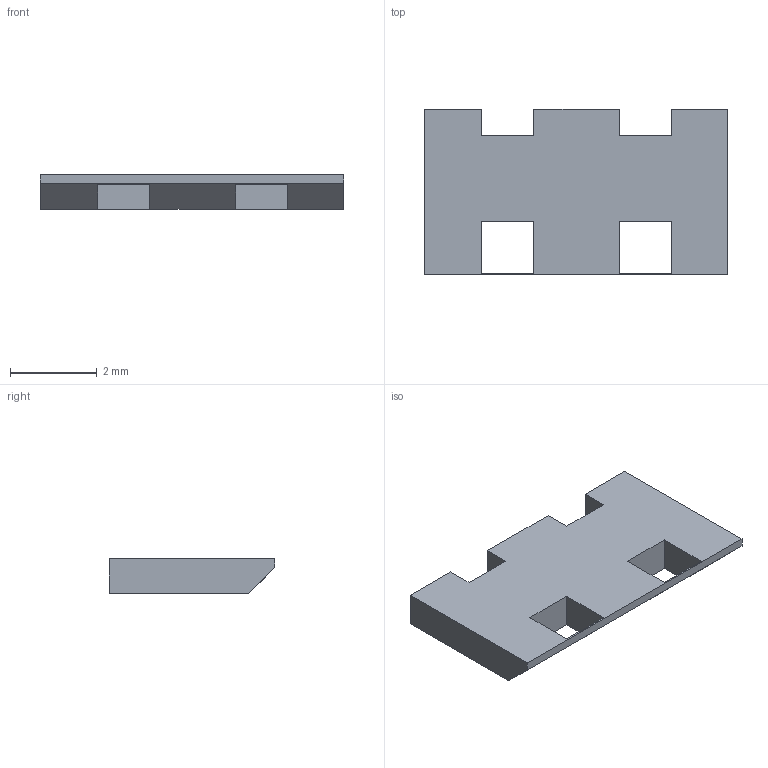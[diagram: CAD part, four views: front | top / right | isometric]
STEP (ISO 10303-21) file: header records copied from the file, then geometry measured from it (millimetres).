
FILE_DESCRIPTION(/* description */ (''),/* implementation_level */ '2;1');
FILE_NAME(/* name */ 'ChipChampRaiser',/* time_stamp */ '2023-05-05T18:51:31+02:00',/* author */ (''),/* organization */ (''),/* preprocessor_version */ 'ST-DEVELOPER v10',/* originating_system */ '',/* authorisation */ '');
FILE_SCHEMA (('CONFIG_CONTROL_DESIGN'));
Length unit declared in the file: millimetre
Products named in the file (1): 1
Bounding box: 6.99 x 3.81 x 0.8 mm (x, y, z)
Volume: 17 mm3; surface area: 66.1 mm2
Topology: 1 solids, 1 shells, 23 faces, 69 edges, 46 vertices
Faces by surface type: plane 22, bspline 1
Entity records: 822 total; most frequent: CARTESIAN_POINT 268, ORIENTED_EDGE 138, EDGE_CURVE 69, B_SPLINE_CURVE_WITH_KNOTS 69, VERTEX_POINT 46, DIRECTION 26, EDGE_LOOP 25, AXIS2_PLACEMENT_3D 24
